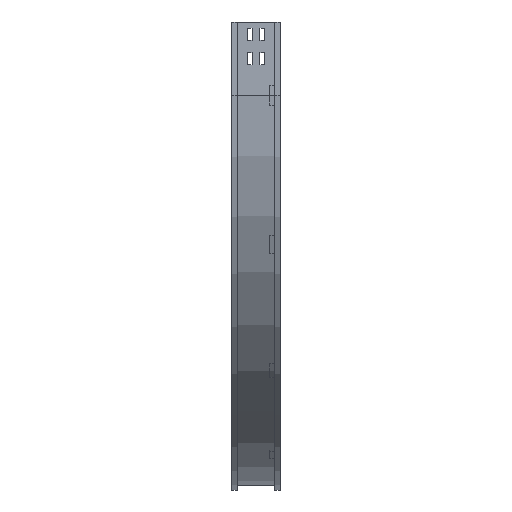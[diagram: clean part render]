
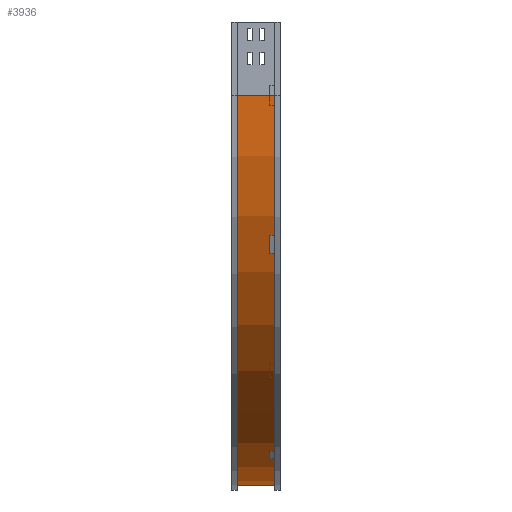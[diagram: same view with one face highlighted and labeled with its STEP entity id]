
A CAD part, left-side view. The second image highlights one B-rep face of the part: STEP entity #3936.
In plain terms, the highlighted cylindrical face has radius 800 mm (diameter 1600 mm), a partial arc.
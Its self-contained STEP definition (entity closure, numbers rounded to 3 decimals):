
#269 = VERTEX_POINT ( 'NONE', #3263 ) ;
#317 = DIRECTION ( 'NONE',  ( -1., 0., 0. ) ) ;
#417 = CYLINDRICAL_SURFACE ( 'NONE', #1753, 800. ) ;
#511 = CARTESIAN_POINT ( 'NONE',  ( 9., 12., -150. ) ) ;
#822 = ORIENTED_EDGE ( 'NONE', *, *, #1336, .F. ) ;
#848 = VECTOR ( 'NONE', #3259, 1000. ) ;
#973 = CARTESIAN_POINT ( 'NONE',  ( 809., 88., -150. ) ) ;
#997 = VECTOR ( 'NONE', #1494, 1000. ) ;
#1219 = AXIS2_PLACEMENT_3D ( 'NONE', #1765, #2422, #4134 ) ;
#1336 = EDGE_CURVE ( 'NONE', #4029, #1469, #3943, .T. ) ;
#1469 = VERTEX_POINT ( 'NONE', #511 ) ;
#1494 = DIRECTION ( 'NONE',  ( 0., -1., 0. ) ) ;
#1570 = CARTESIAN_POINT ( 'NONE',  ( 9., 12., -150. ) ) ;
#1615 = CIRCLE ( 'NONE', #2426, 800. ) ;
#1753 = AXIS2_PLACEMENT_3D ( 'NONE', #4323, #3593, #2632 ) ;
#1765 = CARTESIAN_POINT ( 'NONE',  ( 809., 12., -150. ) ) ;
#1932 = DIRECTION ( 'NONE',  ( 0., -1., 0. ) ) ;
#2004 = ORIENTED_EDGE ( 'NONE', *, *, #4454, .T. ) ;
#2027 = CARTESIAN_POINT ( 'NONE',  ( 9., 88., -150. ) ) ;
#2095 = EDGE_CURVE ( 'NONE', #1469, #3077, #2891, .T. ) ;
#2214 = FACE_OUTER_BOUND ( 'NONE', #2919, .T. ) ;
#2422 = DIRECTION ( 'NONE',  ( 0., -1., 0. ) ) ;
#2426 = AXIS2_PLACEMENT_3D ( 'NONE', #973, #1932, #317 ) ;
#2579 = EDGE_CURVE ( 'NONE', #269, #3077, #3876, .T. ) ;
#2632 = DIRECTION ( 'NONE',  ( 0., 0., -1. ) ) ;
#2891 = CIRCLE ( 'NONE', #1219, 800. ) ;
#2919 = EDGE_LOOP ( 'NONE', ( #2949, #822, #2004, #4299 ) ) ;
#2949 = ORIENTED_EDGE ( 'NONE', *, *, #2095, .F. ) ;
#3077 = VERTEX_POINT ( 'NONE', #4290 ) ;
#3259 = DIRECTION ( 'NONE',  ( 0., -1., 0. ) ) ;
#3263 = CARTESIAN_POINT ( 'NONE',  ( 809., 88., -950. ) ) ;
#3593 = DIRECTION ( 'NONE',  ( 0., -1., 0. ) ) ;
#3876 = LINE ( 'NONE', #3949, #848 ) ;
#3936 = ADVANCED_FACE ( 'NONE', ( #2214 ), #417, .T. ) ;
#3943 = LINE ( 'NONE', #1570, #997 ) ;
#3949 = CARTESIAN_POINT ( 'NONE',  ( 809., 12., -950. ) ) ;
#4029 = VERTEX_POINT ( 'NONE', #2027 ) ;
#4134 = DIRECTION ( 'NONE',  ( -1., 0., 0. ) ) ;
#4290 = CARTESIAN_POINT ( 'NONE',  ( 809., 12., -950. ) ) ;
#4299 = ORIENTED_EDGE ( 'NONE', *, *, #2579, .T. ) ;
#4323 = CARTESIAN_POINT ( 'NONE',  ( 809., 0., -150. ) ) ;
#4454 = EDGE_CURVE ( 'NONE', #4029, #269, #1615, .T. ) ;
